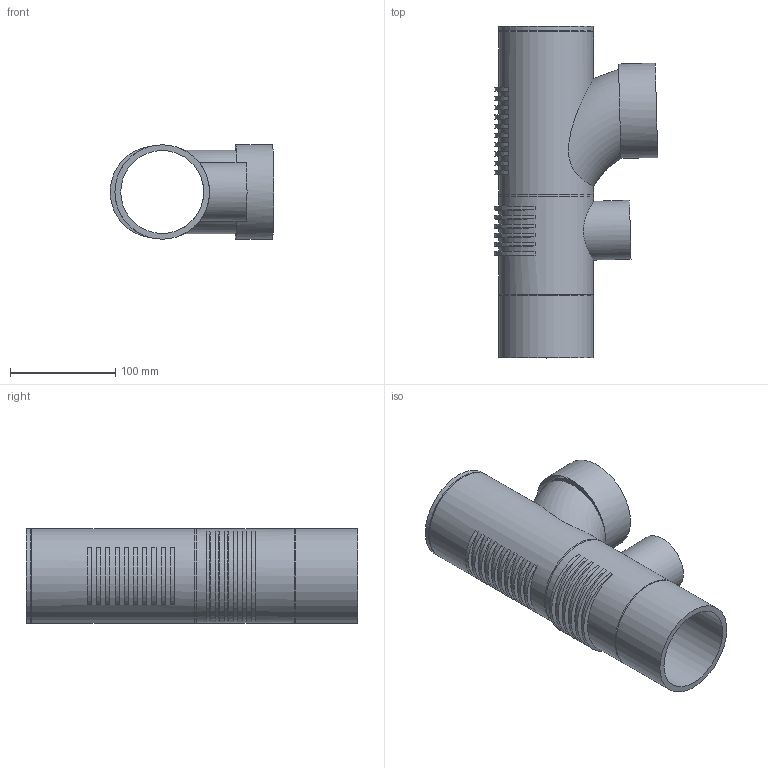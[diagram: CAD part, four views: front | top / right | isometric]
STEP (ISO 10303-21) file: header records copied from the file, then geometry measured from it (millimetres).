
FILE_DESCRIPTION(/* description */ (''),/* implementation_level */ '2;1');
FILE_NAME(/* name */ 'Z:\Geberit\Export\NewStep\308811.stp',/* time_stamp */ '2014-04-01T20:06:13+02:00',/* author */ ('ML'),/* organization */ (''),/* preprocessor_version */ 'ST-DEVELOPER v15.2',/* originating_system */ 'Autodesk Inventor 2014',/* authorisation */ '');
FILE_SCHEMA (('AUTOMOTIVE_DESIGN { 1 0 10303 214 3 1 1 }'));
Length unit declared in the file: millimetre
Products named in the file (5): 308058; 861737; 308089; 861736; 308811
Bounding box: 155.63 x 316 x 90 mm (x, y, z)
Volume: 567226.7 mm3; surface area: 222872.4 mm2
Topology: 2 solids, 2 shells, 72 faces, 161 edges, 110 vertices
Faces by surface type: plane 28, cylinder 26, cone 16, torus 2
Full cylindrical faces by diameter (mm): 49.6 x1, 56 x1, 79 x3, 90 x5
Entity records: 2725 total; most frequent: CARTESIAN_POINT 1071, DIRECTION 338, ORIENTED_EDGE 268, AXIS2_PLACEMENT_3D 153, EDGE_CURVE 134, EDGE_LOOP 116, VERTEX_POINT 102, CIRCLE 72
